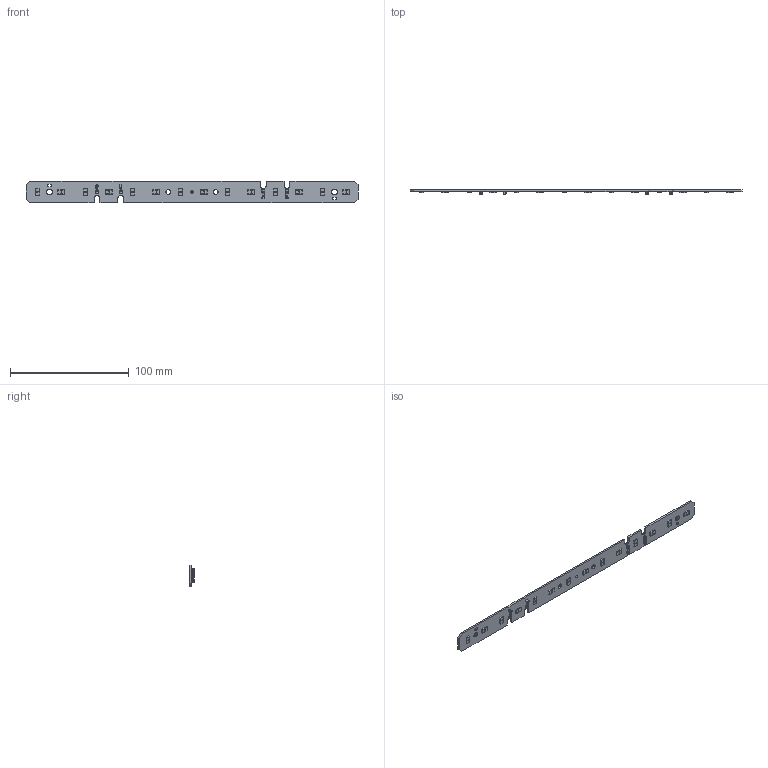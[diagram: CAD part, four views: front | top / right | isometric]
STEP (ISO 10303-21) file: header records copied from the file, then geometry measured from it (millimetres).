
FILE_DESCRIPTION(/* description */ ('Unknown'),/* implementation_level */ '2;1');
FILE_NAME(/* name */ 'LinLED 280x18mm 1100lm 4C 42V G1 (DAISY MINI) 2022-08-19',/* time_stamp */ '2022-08-19T12:52:10+02:00',/* author */ ('Unknown'),/* organization */ ('Unknown'),/* preprocessor_version */ 'ST-DEVELOPER v18.102',/* originating_system */ 'Solid Edge',/* authorisation */ 'Unknown');
FILE_SCHEMA (('AUTOMOTIVE_DESIGN {1 0 10303 214 3 1 1}'));
Length unit declared in the file: millimetre
Products named in the file (4): LinLED 280x18mm 1100lm 4C 42V G1 (DAISY MINI) 2022-08-19; PCB 280x18; LED 2835; c-2834010-3-a-3d
Assembly tree (33 placements, depth 2):
  LinLED 280x18mm 1100lm 4C 42V G1 (DAISY MINI) 2022-08-19
    PCB 280x18
    LED 2835  x28
    c-2834010-3-a-3d  x4
Bounding box: 279.6 x 4.05 x 18 mm (x, y, z)
Volume: 8016.5 mm3; surface area: 11994.9 mm2
Topology: 33 solids, 33 shells, 937 faces, 2369 edges, 1502 vertices
Faces by surface type: plane 714, cylinder 119, bspline 92, torus 8, cone 4
Full cylindrical faces by diameter (mm): 1.8 x4, 2.1 x1, 2.3 x4, 4 x2
Entity records: 7278 total; most frequent: CARTESIAN_POINT 2107, ORIENTED_EDGE 932, DIRECTION 901, EDGE_CURVE 466, LINE 305, VECTOR 305, AXIS2_PLACEMENT_3D 298, VERTEX_POINT 294
